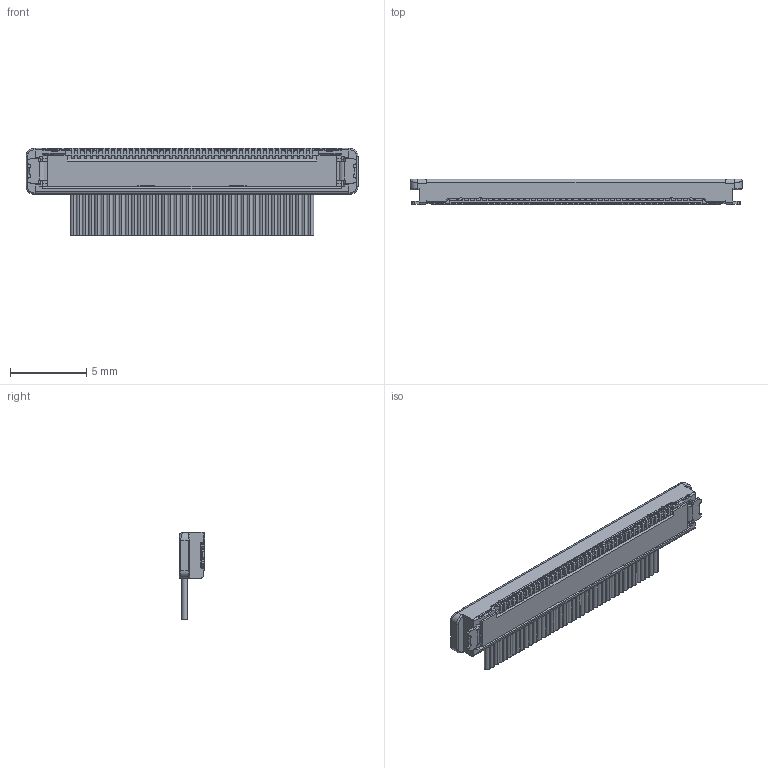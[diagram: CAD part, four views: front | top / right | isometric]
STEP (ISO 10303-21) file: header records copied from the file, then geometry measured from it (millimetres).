
FILE_DESCRIPTION (( 'STEP AP203' ), '1' );
FILE_NAME ('20374-040E-xxC+20380-040T-03C MATING STEP R1R7R2 ALL.STEP', '2012-03-16T16:14:22', ( ' ' ), ( ' ' ), 'SwSTEP 2.0', 'SolidWorks 2011', '' );
FILE_SCHEMA (( 'CONFIG_CONTROL_DESIGN' ));
Products named in the file (3): 20380-040T-00C PLUG CABLE ASSY STEP R7R2 ALL; 20374-040E-xxC+20380-040T-03C MATING STEP R1R7R2 ALL; 20374-040E-xxC RECE ASSY STEP R1 ALL
Assembly tree (2 placements, depth 2):
  20374-040E-xxC+20380-040T-03C MATING STEP R1R7R2 ALL
    20374-040E-xxC RECE ASSY STEP R1 ALL
    20380-040T-00C PLUG CABLE ASSY STEP R7R2 ALL
Bounding box: 21.8 x 1.68 x 5.72 mm (x, y, z)
Volume: 107.5 mm3; surface area: 644.9 mm2
Topology: 2 solids, 2 shells, 2497 faces, 7098 edges, 4606 vertices
Faces by surface type: plane 1643, cylinder 705, torus 98, sphere 39, bspline 8, cone 4
Entity records: 81612 total; most frequent: CARTESIAN_POINT 15626, ORIENTED_EDGE 14010, DIRECTION 13717, EDGE_CURVE 7005, VECTOR 4733, LINE 4733, VERTEX_POINT 4544, AXIS2_PLACEMENT_3D 4492
